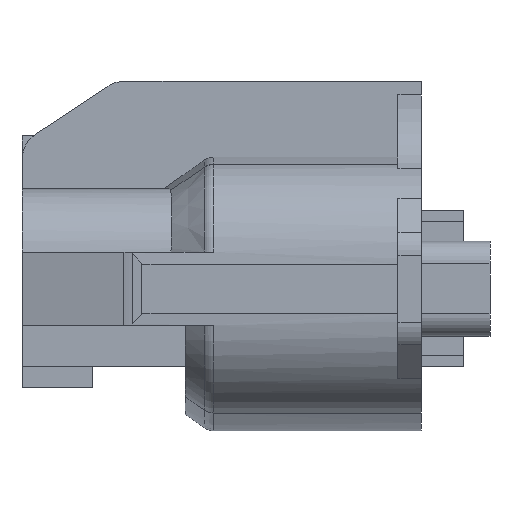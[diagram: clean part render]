
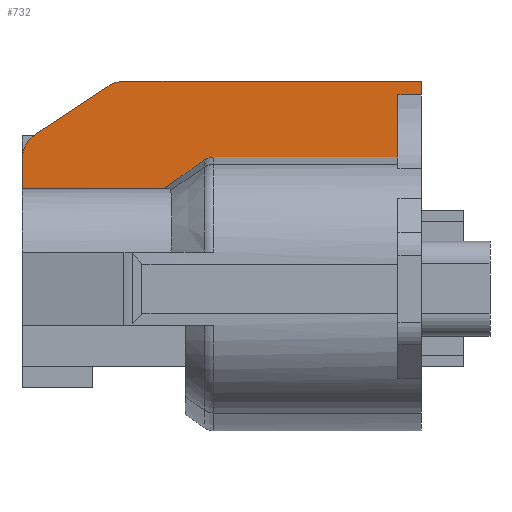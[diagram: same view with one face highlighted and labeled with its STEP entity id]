
A CAD part, front view. The second image highlights one B-rep face of the part: STEP entity #732.
In plain terms, the highlighted planar face has unit normal (0, -1, 0).
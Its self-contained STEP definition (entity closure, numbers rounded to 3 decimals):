
#621=AXIS2_PLACEMENT_3D('Circle Axis2P3D',#619,#620,$) ;
#641=AXIS2_PLACEMENT_3D('Plane Axis2P3D',#638,#639,#640) ;
#682=AXIS2_PLACEMENT_3D('Circle Axis2P3D',#680,#681,$) ;
#196=CARTESIAN_POINT('Vertex',(-30.,-8.,6.4)) ;
#199=CARTESIAN_POINT('Line Origine',(-30.,-8.,7.336)) ;
#203=CARTESIAN_POINT('Vertex',(-30.,-8.,8.272)) ;
#619=CARTESIAN_POINT('Axis2P3D Location',(-28.,-8.,8.272)) ;
#623=CARTESIAN_POINT('Vertex',(-29.1,-8.,9.943)) ;
#638=CARTESIAN_POINT('Axis2P3D Location',(-3.9,-8.,12.1)) ;
#643=CARTESIAN_POINT('Line Origine',(-11.817,-8.,8.44)) ;
#647=CARTESIAN_POINT('Vertex',(-17.735,-8.,8.44)) ;
#649=CARTESIAN_POINT('Vertex',(-5.9,-8.,8.44)) ;
#652=CARTESIAN_POINT('Line Origine',(-5.9,-8.,10.431)) ;
#656=CARTESIAN_POINT('Vertex',(-5.9,-8.,12.423)) ;
#659=CARTESIAN_POINT('Line Origine',(-5.15,-8.,12.423)) ;
#663=CARTESIAN_POINT('Vertex',(-4.4,-8.,12.423)) ;
#666=CARTESIAN_POINT('Line Origine',(-4.4,-8.,12.861)) ;
#670=CARTESIAN_POINT('Vertex',(-4.4,-8.,13.3)) ;
#673=CARTESIAN_POINT('Line Origine',(-13.9,-8.,13.3)) ;
#677=CARTESIAN_POINT('Vertex',(-23.401,-8.,13.3)) ;
#680=CARTESIAN_POINT('Axis2P3D Location',(-23.401,-8.,11.3)) ;
#684=CARTESIAN_POINT('Vertex',(-24.501,-8.,12.97)) ;
#687=CARTESIAN_POINT('Line Origine',(-26.8,-8.,11.457)) ;
#692=CARTESIAN_POINT('Line Origine',(-25.461,-8.,6.4)) ;
#696=CARTESIAN_POINT('Vertex',(-20.922,-8.,6.4)) ;
#700=CARTESIAN_POINT('Control Point',(-20.922,-8.,6.4)) ;
#701=CARTESIAN_POINT('Control Point',(-20.052,-8.,7.019)) ;
#702=CARTESIAN_POINT('Control Point',(-19.18,-8.,7.637)) ;
#703=CARTESIAN_POINT('Control Point',(-18.308,-8.,8.256)) ;
#704=CARTESIAN_POINT('Vertex',(-18.308,-8.,8.256)) ;
#708=CARTESIAN_POINT('Control Point',(-18.308,-8.,8.256)) ;
#709=CARTESIAN_POINT('Control Point',(-18.228,-8.,8.313)) ;
#710=CARTESIAN_POINT('Control Point',(-18.141,-8.,8.36)) ;
#711=CARTESIAN_POINT('Control Point',(-18.049,-8.,8.396)) ;
#712=CARTESIAN_POINT('Control Point',(-17.93,-8.,8.426)) ;
#713=CARTESIAN_POINT('Control Point',(-17.808,-8.,8.438)) ;
#714=CARTESIAN_POINT('Control Point',(-17.783,-8.,8.439)) ;
#715=CARTESIAN_POINT('Control Point',(-17.759,-8.,8.44)) ;
#716=CARTESIAN_POINT('Control Point',(-17.735,-8.,8.44)) ;
#200=DIRECTION('Vector Direction',(0.,0.,1.)) ;
#620=DIRECTION('Axis2P3D Direction',(0.,1.,0.)) ;
#639=DIRECTION('Axis2P3D Direction',(0.,1.,0.)) ;
#640=DIRECTION('Axis2P3D XDirection',(0.,0.,-1.)) ;
#644=DIRECTION('Vector Direction',(1.,0.,0.)) ;
#653=DIRECTION('Vector Direction',(0.,0.,-1.)) ;
#660=DIRECTION('Vector Direction',(-1.,0.,0.)) ;
#667=DIRECTION('Vector Direction',(0.,0.,1.)) ;
#674=DIRECTION('Vector Direction',(1.,0.,0.)) ;
#681=DIRECTION('Axis2P3D Direction',(0.,1.,0.)) ;
#688=DIRECTION('Vector Direction',(0.835,0.,0.55)) ;
#693=DIRECTION('Vector Direction',(-1.,0.,0.)) ;
#201=VECTOR('Line Direction',#200,1.) ;
#645=VECTOR('Line Direction',#644,1.) ;
#654=VECTOR('Line Direction',#653,1.) ;
#661=VECTOR('Line Direction',#660,1.) ;
#668=VECTOR('Line Direction',#667,1.) ;
#675=VECTOR('Line Direction',#674,1.) ;
#689=VECTOR('Line Direction',#688,1.) ;
#694=VECTOR('Line Direction',#693,1.) ;
#719=ORIENTED_EDGE('',*,*,#651,.T.) ;
#720=ORIENTED_EDGE('',*,*,#658,.F.) ;
#721=ORIENTED_EDGE('',*,*,#665,.F.) ;
#722=ORIENTED_EDGE('',*,*,#672,.F.) ;
#723=ORIENTED_EDGE('',*,*,#679,.F.) ;
#724=ORIENTED_EDGE('',*,*,#686,.F.) ;
#725=ORIENTED_EDGE('',*,*,#691,.F.) ;
#726=ORIENTED_EDGE('',*,*,#625,.F.) ;
#727=ORIENTED_EDGE('',*,*,#205,.F.) ;
#728=ORIENTED_EDGE('',*,*,#698,.F.) ;
#729=ORIENTED_EDGE('',*,*,#706,.T.) ;
#730=ORIENTED_EDGE('',*,*,#717,.F.) ;
#732=ADVANCED_FACE('\X2\FF8EFF9EFF83FF9EFF68FF70\X0\.2',(#731),#642,.F.) ;
#699=B_SPLINE_CURVE_WITH_KNOTS('',3,(#700,#701,#702,#703),.UNSPECIFIED.,.F.,.U.,(4,4),(0.,4.571),.UNSPECIFIED.) ;
#707=B_SPLINE_CURVE_WITH_KNOTS('',5,(#708,#709,#710,#711,#712,#713,#714,#715,#716),.UNSPECIFIED.,.F.,.U.,(6,3,6),(0.,0.693,0.865),.UNSPECIFIED.) ;
#622=CIRCLE('generated circle',#621,2.) ;
#683=CIRCLE('generated circle',#682,2.) ;
#205=EDGE_CURVE('',#197,#204,#202,.T.) ;
#625=EDGE_CURVE('',#204,#624,#622,.T.) ;
#651=EDGE_CURVE('',#648,#650,#646,.T.) ;
#658=EDGE_CURVE('',#657,#650,#655,.T.) ;
#665=EDGE_CURVE('',#664,#657,#662,.T.) ;
#672=EDGE_CURVE('',#671,#664,#669,.F.) ;
#679=EDGE_CURVE('',#678,#671,#676,.T.) ;
#686=EDGE_CURVE('',#685,#678,#683,.T.) ;
#691=EDGE_CURVE('',#624,#685,#690,.T.) ;
#698=EDGE_CURVE('',#697,#197,#695,.T.) ;
#706=EDGE_CURVE('',#697,#705,#699,.T.) ;
#717=EDGE_CURVE('',#648,#705,#707,.F.) ;
#718=EDGE_LOOP('',(#719,#720,#721,#722,#723,#724,#725,#726,#727,#728,#729,#730)) ;
#731=FACE_OUTER_BOUND('',#718,.T.) ;
#202=LINE('Line',#199,#201) ;
#646=LINE('Line',#643,#645) ;
#655=LINE('Line',#652,#654) ;
#662=LINE('Line',#659,#661) ;
#669=LINE('Line',#666,#668) ;
#676=LINE('Line',#673,#675) ;
#690=LINE('Line',#687,#689) ;
#695=LINE('Line',#692,#694) ;
#642=PLANE('',#641) ;
#197=VERTEX_POINT('',#196) ;
#204=VERTEX_POINT('',#203) ;
#624=VERTEX_POINT('',#623) ;
#648=VERTEX_POINT('',#647) ;
#650=VERTEX_POINT('',#649) ;
#657=VERTEX_POINT('',#656) ;
#664=VERTEX_POINT('',#663) ;
#671=VERTEX_POINT('',#670) ;
#678=VERTEX_POINT('',#677) ;
#685=VERTEX_POINT('',#684) ;
#697=VERTEX_POINT('',#696) ;
#705=VERTEX_POINT('',#704) ;
